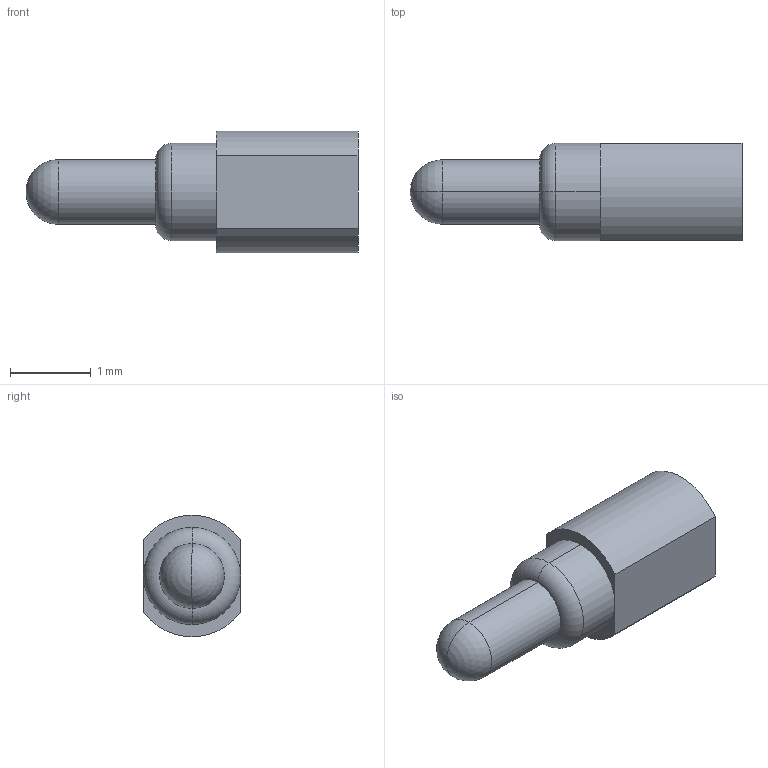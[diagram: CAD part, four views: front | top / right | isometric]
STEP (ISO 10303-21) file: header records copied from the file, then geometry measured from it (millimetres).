
FILE_DESCRIPTION((''),'2;1');
FILE_NAME('NC3010-01A','2022-05-25T10:23:01',('USER'),(''),'CREO PARAMETRIC BY PTC INC, 2018400','CREO PARAMETRIC BY PTC INC, 2018400','');
FILE_SCHEMA(('CONFIG_CONTROL_DESIGN'));
Length unit declared in the file: millimetre
Products named in the file (1): NC3010-01A
Bounding box: 4.1 x 1.2 x 1.49 mm (x, y, z)
Volume: 4.3 mm3; surface area: 17.2 mm2
Topology: 1 solids, 1 shells, 15 faces, 34 edges, 19 vertices
Faces by surface type: cylinder 6, plane 5, torus 2, sphere 2
Entity records: 446 total; most frequent: DIRECTION 80, CARTESIAN_POINT 66, ORIENTED_EDGE 64, AXIS2_PLACEMENT_3D 33, EDGE_CURVE 32, VERTEX_POINT 19, CIRCLE 18, EDGE_LOOP 15
